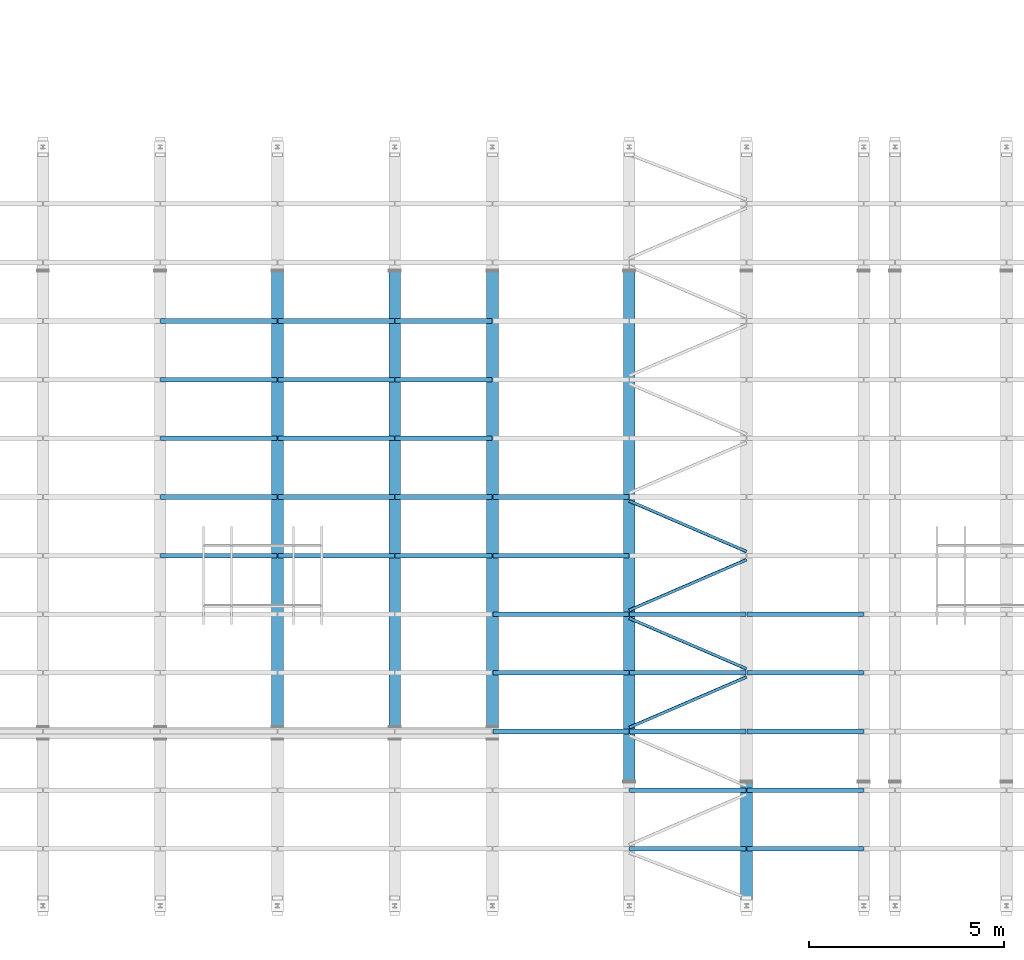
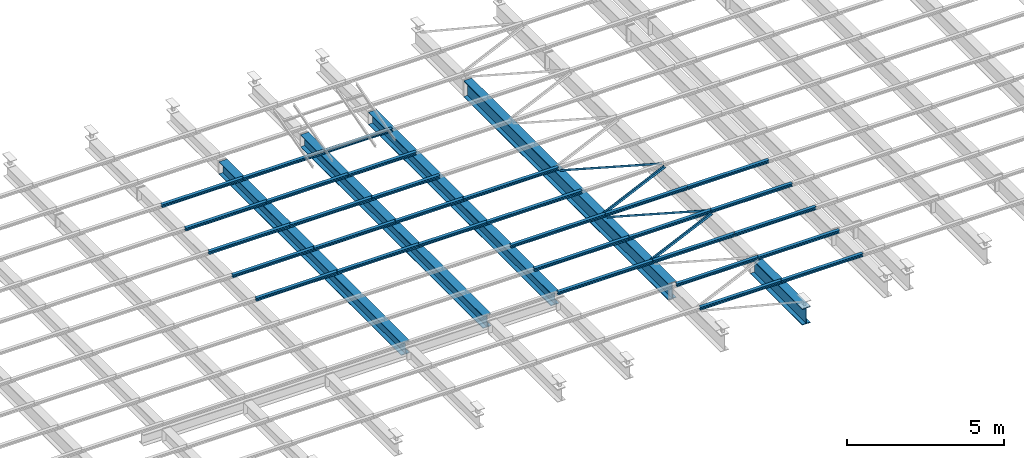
# One storey, part 64 of 139: 39 beams.
"""IFC2X3 building model written with IfcOpenShell, lengths in metres."""

from ifc_helpers import new_model, entity, si_unit, converted_unit, derived_unit, frame, origin, place, context, subcontext, project, spatial, polyline, outline, extrude, material, element, save


model = new_model("IFC2X3")

# Units and contexts
model_context = context("Model", 3, precision=1e-05, world=origin())
body_context = subcontext(model_context, "Body", "Model", "MODEL_VIEW")
ifc_project = project(units=[si_unit("LENGTHUNIT", "METRE"), si_unit("AREAUNIT", "SQUARE_METRE"), si_unit("VOLUMEUNIT", "CUBIC_METRE"), si_unit("MASSUNIT", "GRAM", prefix="KILO"), converted_unit("PLANEANGLEUNIT", "DEGREE", entity("IfcPlaneAngleMeasure", 0.0174532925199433), si_unit("PLANEANGLEUNIT", "RADIAN"), dimensions=[0, 0, 0, 0, 0, 0, 0]), derived_unit("THERMALTRANSMITTANCEUNIT", [(si_unit("POWERUNIT", "WATT"), 1), (si_unit("THERMODYNAMICTEMPERATUREUNIT", "KELVIN"), -1), (si_unit("LENGTHUNIT", "METRE"), -2)]), derived_unit("VOLUMETRICFLOWRATEUNIT", [(si_unit("LENGTHUNIT", "METRE"), 3), (converted_unit("TIMEUNIT", "hour", entity("IfcTimeMeasure", 3600.0), si_unit("TIMEUNIT", "SECOND"), dimensions=[0, 0, 1, 0, 0, 0, 0]), -1), (si_unit("LENGTHUNIT", "METRE"), -1)])], contexts=[model_context])

# Site, building, storey
site_placement = place(None, origin())
site = spatial("IfcSite", under=ifc_project, at=site_placement, Name="TWP_Speiseverteilzentrum SBW VZ II", CompositionType="ELEMENT")
building_placement = place(site_placement, origin())
building = spatial("IfcBuilding", under=site, at=building_placement, Name="Speiseverteilzentrum SBW VZ II", CompositionType="ELEMENT")
storey_placement = place(building_placement, frame((0.0, 0.0, 7.1307)))
storey = spatial("IfcBuildingStorey", under=building, at=storey_placement, Name="Wartung_FFB", CompositionType="ELEMENT", Elevation=7.1307)

# Beams
ifc_material_1 = material(Name="S235")
beam_1_placement = place(storey_placement, frame((76.0500000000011, 26.9020742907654, -0.435), z_axis=(0.0, 0.0, 1.0), x_axis=(-1.0, 0.0, 0.0)))
element("IfcBeam", 1, at=beam_1_placement, inside=storey, material=ifc_material_1, Name="Stahlträger", context=body_context, shape_type="SweptSolid", body=[
    extrude(outline(polyline([(-0.15, 0.245), (-0.15, 0.222), (-0.00599999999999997, 0.222), (-0.006, -0.222), (-0.15, -0.222), (-0.15, -0.245), (0.15, -0.245), (0.15, -0.222), (0.00600000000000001, -0.222), (0.00600000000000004, 0.222), (0.15, 0.222), (0.15, 0.245), (-0.15, 0.245)])), frame((0.0, 0.0, 0.0), z_axis=(0.0, 1.0, 0.0), x_axis=(-1.0, 0.0, 0.0)), (0.0, 0.0, 1.0), 11.6169742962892),
])
ifc_material_2 = material(Name="S235")
beam_2_placement = place(storey_placement, frame((79.0500000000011, 26.9020742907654, -0.435), z_axis=(0.0, 0.0, 1.0), x_axis=(-1.0, 0.0, 0.0)))
element("IfcBeam", 2, at=beam_2_placement, inside=storey, material=ifc_material_2, Name="Stahlträger", context=body_context, shape_type="SweptSolid", body=[
    extrude(outline(polyline([(-0.15, 0.245), (-0.15, 0.222), (-0.00599999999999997, 0.222), (-0.006, -0.222), (-0.15, -0.222), (-0.15, -0.245), (0.15, -0.245), (0.15, -0.222), (0.00600000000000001, -0.222), (0.00600000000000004, 0.222), (0.15, 0.222), (0.15, 0.245), (-0.15, 0.245)])), frame((0.0, 0.0, 0.0), z_axis=(0.0, 1.0, 0.0), x_axis=(-1.0, 0.0, 0.0)), (0.0, 0.0, 1.0), 11.6169742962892),
])
ifc_material_3 = material(Name="S235")
beam_3_placement = place(storey_placement, frame((81.5500000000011, 26.9020742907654, -0.435), z_axis=(0.0, 0.0, 1.0), x_axis=(-1.0, 0.0, 0.0)))
element("IfcBeam", 3, at=beam_3_placement, inside=storey, material=ifc_material_3, Name="Stahlträger", context=body_context, shape_type="SweptSolid", body=[
    extrude(outline(polyline([(-0.15, 0.245), (-0.15, 0.222), (-0.00599999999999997, 0.222), (-0.006, -0.222), (-0.15, -0.222), (-0.15, -0.245), (0.15, -0.245), (0.15, -0.222), (0.00600000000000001, -0.222), (0.00600000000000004, 0.222), (0.15, 0.222), (0.15, 0.245), (-0.15, 0.245)])), frame((0.0, 0.0, 0.0), z_axis=(0.0, 1.0, 0.0), x_axis=(-1.0, 0.0, 0.0)), (0.0, 0.0, 1.0), 11.6169742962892),
])
ifc_material_4 = material(Name="S235")
beam_4_placement = place(storey_placement, frame((85.0500000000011, 26.9020742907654, -0.51), z_axis=(0.0, 0.0, 1.0), x_axis=(-1.0, 0.0, 0.0)))
element("IfcBeam", 4, at=beam_4_placement, inside=storey, material=ifc_material_4, Name="Stahlträger", context=body_context, shape_type="SweptSolid", body=[
    extrude(outline(polyline([(-0.15, 0.32), (-0.15, 0.294), (-0.00675000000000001, 0.294), (-0.00675000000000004, -0.294), (-0.15, -0.294), (-0.15, -0.32), (0.15, -0.32), (0.15, -0.294), (0.00674999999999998, -0.294), (0.00675000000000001, 0.294), (0.15, 0.294), (0.15, 0.32), (-0.15, 0.32)])), frame((0.0, 0.0, 0.0), z_axis=(0.0, 1.0, 0.0), x_axis=(-1.0, 0.0, 0.0)), (0.0, 0.0, 1.0), 13.014),
])
ifc_material_5 = material(Name="S235")
beam_5_placement = place(storey_placement, frame((88.0500000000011, 13.8380742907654, -0.51), z_axis=(0.0, 0.0, 1.0), x_axis=(-1.0, 0.0, 0.0)))
element("IfcBeam", 5, at=beam_5_placement, inside=storey, material=ifc_material_5, Name="Stahlträger", context=body_context, shape_type="SweptSolid", body=[
    extrude(outline(polyline([(-0.15, 0.32), (-0.15, 0.294), (-0.00675000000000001, 0.294), (-0.00675000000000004, -0.294), (-0.15, -0.294), (-0.15, -0.32), (0.15, -0.32), (0.15, -0.294), (0.00674999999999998, -0.294), (0.00675000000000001, 0.294), (0.15, 0.294), (0.15, 0.32), (-0.15, 0.32)])), frame((0.0, 0.0, 0.0), z_axis=(0.0, 1.0, 0.0), x_axis=(-1.0, 0.0, 0.0)), (0.0, 0.0, 1.0), 3.29792570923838),
])
ifc_material_6 = material(Name="S235")
beam_6_placement = place(storey_placement, frame((73.0600000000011, 25.6450742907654, -0.133), z_axis=(0.0, 0.0, 1.0), x_axis=(0.0, -1.0, 0.0)))
element("IfcBeam", 6, at=beam_6_placement, inside=storey, material=ifc_material_6, Name="Nebenträger", context=body_context, shape_type="SweptSolid", body=[
    extrude(outline(polyline([(-0.06, 0.0570000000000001), (-0.06, 0.0490000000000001), (-0.00249999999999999, 0.0490000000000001), (-0.0025, -0.0489999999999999), (-0.06, -0.0489999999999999), (-0.06, -0.0569999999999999), (0.06, -0.0569999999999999), (0.06, -0.0489999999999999), (0.0025, -0.0489999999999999), (0.00250000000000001, 0.0490000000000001), (0.06, 0.0490000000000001), (0.06, 0.0570000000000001), (-0.06, 0.0570000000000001)])), frame((0.0, 0.0, 0.0), z_axis=(0.0, 1.0, 0.0), x_axis=(-1.0, 0.0, 0.0)), (0.0, 0.0, 1.0), 2.98),
])
ifc_material_7 = material(Name="S235")
beam_7_placement = place(storey_placement, frame((76.0600000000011, 25.6450742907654, -0.133), z_axis=(0.0, 0.0, 1.0), x_axis=(0.0, -1.0, 0.0)))
element("IfcBeam", 7, at=beam_7_placement, inside=storey, material=ifc_material_7, Name="Nebenträger", context=body_context, shape_type="SweptSolid", body=[
    extrude(outline(polyline([(-0.06, 0.0570000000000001), (-0.06, 0.0490000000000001), (-0.00249999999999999, 0.0490000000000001), (-0.0025, -0.0489999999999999), (-0.06, -0.0489999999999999), (-0.06, -0.0569999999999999), (0.06, -0.0569999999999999), (0.06, -0.0489999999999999), (0.0025, -0.0489999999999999), (0.00250000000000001, 0.0490000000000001), (0.06, 0.0490000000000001), (0.06, 0.0570000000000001), (-0.06, 0.0570000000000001)])), frame((0.0, 0.0, 0.0), z_axis=(0.0, 1.0, 0.0), x_axis=(-1.0, 0.0, 0.0)), (0.0, 0.0, 1.0), 2.98),
])
ifc_material_8 = material(Name="S235")
beam_8_placement = place(storey_placement, frame((73.0600000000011, 24.1450742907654, -0.133), z_axis=(0.0, 0.0, 1.0), x_axis=(0.0, -1.0, 0.0)))
element("IfcBeam", 8, at=beam_8_placement, inside=storey, material=ifc_material_8, Name="Nebenträger", context=body_context, shape_type="SweptSolid", body=[
    extrude(outline(polyline([(-0.06, 0.0570000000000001), (-0.06, 0.0490000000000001), (-0.00249999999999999, 0.0490000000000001), (-0.0025, -0.0489999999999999), (-0.06, -0.0489999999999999), (-0.06, -0.0569999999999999), (0.06, -0.0569999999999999), (0.06, -0.0489999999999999), (0.0025, -0.0489999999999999), (0.00250000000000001, 0.0490000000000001), (0.06, 0.0490000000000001), (0.06, 0.0570000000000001), (-0.06, 0.0570000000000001)])), frame((0.0, 0.0, 0.0), z_axis=(0.0, 1.0, 0.0), x_axis=(-1.0, 0.0, 0.0)), (0.0, 0.0, 1.0), 2.98),
])
ifc_material_9 = material(Name="S235")
beam_9_placement = place(storey_placement, frame((76.0600000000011, 24.1450742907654, -0.133), z_axis=(0.0, 0.0, 1.0), x_axis=(0.0, -1.0, 0.0)))
element("IfcBeam", 9, at=beam_9_placement, inside=storey, material=ifc_material_9, Name="Nebenträger", context=body_context, shape_type="SweptSolid", body=[
    extrude(outline(polyline([(-0.06, 0.0570000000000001), (-0.06, 0.0490000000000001), (-0.00249999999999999, 0.0490000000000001), (-0.0025, -0.0489999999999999), (-0.06, -0.0489999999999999), (-0.06, -0.0569999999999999), (0.06, -0.0569999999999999), (0.06, -0.0489999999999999), (0.0025, -0.0489999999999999), (0.00250000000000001, 0.0490000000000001), (0.06, 0.0490000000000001), (0.06, 0.0570000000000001), (-0.06, 0.0570000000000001)])), frame((0.0, 0.0, 0.0), z_axis=(0.0, 1.0, 0.0), x_axis=(-1.0, 0.0, 0.0)), (0.0, 0.0, 1.0), 2.98),
])
ifc_material_10 = material(Name="S235")
beam_10_placement = place(storey_placement, frame((73.0600000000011, 22.6450742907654, -0.133), z_axis=(0.0, 0.0, 1.0), x_axis=(0.0, -1.0, 0.0)))
element("IfcBeam", 10, at=beam_10_placement, inside=storey, material=ifc_material_10, Name="Nebenträger", context=body_context, shape_type="SweptSolid", body=[
    extrude(outline(polyline([(-0.06, 0.0570000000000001), (-0.06, 0.0490000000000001), (-0.00249999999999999, 0.0490000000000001), (-0.0025, -0.0489999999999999), (-0.06, -0.0489999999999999), (-0.06, -0.0569999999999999), (0.06, -0.0569999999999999), (0.06, -0.0489999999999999), (0.0025, -0.0489999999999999), (0.00250000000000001, 0.0490000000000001), (0.06, 0.0490000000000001), (0.06, 0.0570000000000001), (-0.06, 0.0570000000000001)])), frame((0.0, 0.0, 0.0), z_axis=(0.0, 1.0, 0.0), x_axis=(-1.0, 0.0, 0.0)), (0.0, 0.0, 1.0), 2.98),
])
ifc_material_11 = material(Name="S235")
beam_11_placement = place(storey_placement, frame((76.0600000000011, 22.6450742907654, -0.133), z_axis=(0.0, 0.0, 1.0), x_axis=(0.0, -1.0, 0.0)))
element("IfcBeam", 11, at=beam_11_placement, inside=storey, material=ifc_material_11, Name="Nebenträger", context=body_context, shape_type="SweptSolid", body=[
    extrude(outline(polyline([(-0.06, 0.0570000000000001), (-0.06, 0.0490000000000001), (-0.00249999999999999, 0.0490000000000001), (-0.0025, -0.0489999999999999), (-0.06, -0.0489999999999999), (-0.06, -0.0569999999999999), (0.06, -0.0569999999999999), (0.06, -0.0489999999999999), (0.0025, -0.0489999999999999), (0.00250000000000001, 0.0490000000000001), (0.06, 0.0490000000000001), (0.06, 0.0570000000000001), (-0.06, 0.0570000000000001)])), frame((0.0, 0.0, 0.0), z_axis=(0.0, 1.0, 0.0), x_axis=(-1.0, 0.0, 0.0)), (0.0, 0.0, 1.0), 2.98),
])
ifc_material_12 = material(Name="S235")
beam_12_placement = place(storey_placement, frame((73.0600000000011, 21.1450742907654, -0.133), z_axis=(0.0, 0.0, 1.0), x_axis=(0.0, -1.0, 0.0)))
element("IfcBeam", 12, at=beam_12_placement, inside=storey, material=ifc_material_12, Name="Nebenträger", context=body_context, shape_type="SweptSolid", body=[
    extrude(outline(polyline([(-0.06, 0.0570000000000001), (-0.06, 0.0490000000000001), (-0.00249999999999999, 0.0490000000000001), (-0.0025, -0.0489999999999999), (-0.06, -0.0489999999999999), (-0.06, -0.0569999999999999), (0.06, -0.0569999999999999), (0.06, -0.0489999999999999), (0.0025, -0.0489999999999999), (0.00250000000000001, 0.0490000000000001), (0.06, 0.0490000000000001), (0.06, 0.0570000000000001), (-0.06, 0.0570000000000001)])), frame((0.0, 0.0, 0.0), z_axis=(0.0, 1.0, 0.0), x_axis=(-1.0, 0.0, 0.0)), (0.0, 0.0, 1.0), 2.98),
])
ifc_material_13 = material(Name="S235")
beam_13_placement = place(storey_placement, frame((76.0600000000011, 21.1450742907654, -0.133), z_axis=(0.0, 0.0, 1.0), x_axis=(0.0, -1.0, 0.0)))
element("IfcBeam", 13, at=beam_13_placement, inside=storey, material=ifc_material_13, Name="Nebenträger", context=body_context, shape_type="SweptSolid", body=[
    extrude(outline(polyline([(-0.06, 0.0570000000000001), (-0.06, 0.0490000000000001), (-0.00249999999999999, 0.0490000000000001), (-0.0025, -0.0489999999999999), (-0.06, -0.0489999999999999), (-0.06, -0.0569999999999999), (0.06, -0.0569999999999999), (0.06, -0.0489999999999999), (0.0025, -0.0489999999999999), (0.00250000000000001, 0.0490000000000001), (0.06, 0.0490000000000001), (0.06, 0.0570000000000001), (-0.06, 0.0570000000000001)])), frame((0.0, 0.0, 0.0), z_axis=(0.0, 1.0, 0.0), x_axis=(-1.0, 0.0, 0.0)), (0.0, 0.0, 1.0), 2.98),
])
ifc_material_14 = material(Name="S235")
beam_14_placement = place(storey_placement, frame((73.0600000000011, 19.6450742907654, -0.133), z_axis=(0.0, 0.0, 1.0), x_axis=(0.0, -1.0, 0.0)))
element("IfcBeam", 14, at=beam_14_placement, inside=storey, material=ifc_material_14, Name="Nebenträger", context=body_context, shape_type="SweptSolid", body=[
    extrude(outline(polyline([(-0.06, 0.0570000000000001), (-0.06, 0.0490000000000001), (-0.00249999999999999, 0.0490000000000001), (-0.0025, -0.0489999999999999), (-0.06, -0.0489999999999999), (-0.06, -0.0569999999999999), (0.06, -0.0569999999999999), (0.06, -0.0489999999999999), (0.0025, -0.0489999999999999), (0.00250000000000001, 0.0490000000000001), (0.06, 0.0490000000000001), (0.06, 0.0570000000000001), (-0.06, 0.0570000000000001)])), frame((0.0, 0.0, 0.0), z_axis=(0.0, 1.0, 0.0), x_axis=(-1.0, 0.0, 0.0)), (0.0, 0.0, 1.0), 2.98),
])
ifc_material_15 = material(Name="S235")
beam_15_placement = place(storey_placement, frame((76.0600000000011, 19.6450742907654, -0.133), z_axis=(0.0, 0.0, 1.0), x_axis=(0.0, -1.0, 0.0)))
element("IfcBeam", 15, at=beam_15_placement, inside=storey, material=ifc_material_15, Name="Nebenträger", context=body_context, shape_type="SweptSolid", body=[
    extrude(outline(polyline([(-0.06, 0.0570000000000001), (-0.06, 0.0490000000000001), (-0.00249999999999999, 0.0490000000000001), (-0.0025, -0.0489999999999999), (-0.06, -0.0489999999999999), (-0.06, -0.0569999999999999), (0.06, -0.0569999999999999), (0.06, -0.0489999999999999), (0.0025, -0.0489999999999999), (0.00250000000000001, 0.0490000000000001), (0.06, 0.0490000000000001), (0.06, 0.0570000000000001), (-0.06, 0.0570000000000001)])), frame((0.0, 0.0, 0.0), z_axis=(0.0, 1.0, 0.0), x_axis=(-1.0, 0.0, 0.0)), (0.0, 0.0, 1.0), 2.98),
])
ifc_material_16 = material(Name="S235")
beam_16_placement = place(storey_placement, frame((85.0600000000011, 18.1450742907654, -0.133), z_axis=(0.0, 0.0, 1.0), x_axis=(0.0, -1.0, 0.0)))
element("IfcBeam", 16, at=beam_16_placement, inside=storey, material=ifc_material_16, Name="Nebenträger", context=body_context, shape_type="SweptSolid", body=[
    extrude(outline(polyline([(-0.06, 0.0570000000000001), (-0.06, 0.0490000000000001), (-0.00249999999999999, 0.0490000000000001), (-0.0025, -0.0489999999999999), (-0.06, -0.0489999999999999), (-0.06, -0.0569999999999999), (0.06, -0.0569999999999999), (0.06, -0.0489999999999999), (0.0025, -0.0489999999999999), (0.00250000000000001, 0.0490000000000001), (0.06, 0.0490000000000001), (0.06, 0.0570000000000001), (-0.06, 0.0570000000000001)])), frame((0.0, 0.0, 0.0), z_axis=(0.0, 1.0, 0.0), x_axis=(-1.0, 0.0, 0.0)), (0.0, 0.0, 1.0), 2.98),
])
ifc_material_17 = material(Name="S235")
beam_17_placement = place(storey_placement, frame((88.0600000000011, 18.1450742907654, -0.133), z_axis=(0.0, 0.0, 1.0), x_axis=(0.0, -1.0, 0.0)))
element("IfcBeam", 17, at=beam_17_placement, inside=storey, material=ifc_material_17, Name="Nebenträger", context=body_context, shape_type="SweptSolid", body=[
    extrude(outline(polyline([(-0.06, 0.0570000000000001), (-0.06, 0.0490000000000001), (-0.00249999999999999, 0.0490000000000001), (-0.0025, -0.0489999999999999), (-0.06, -0.0489999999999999), (-0.06, -0.0569999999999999), (0.06, -0.0569999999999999), (0.06, -0.0489999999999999), (0.0025, -0.0489999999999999), (0.00250000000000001, 0.0490000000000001), (0.06, 0.0490000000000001), (0.06, 0.0570000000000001), (-0.06, 0.0570000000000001)])), frame((0.0, 0.0, 0.0), z_axis=(0.0, 1.0, 0.0), x_axis=(-1.0, 0.0, 0.0)), (0.0, 0.0, 1.0), 2.98),
])
ifc_material_18 = material(Name="S235")
beam_18_placement = place(storey_placement, frame((85.0600000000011, 16.6450742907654, -0.133), z_axis=(0.0, 0.0, 1.0), x_axis=(0.0, -1.0, 0.0)))
element("IfcBeam", 18, at=beam_18_placement, inside=storey, material=ifc_material_18, Name="Nebenträger", context=body_context, shape_type="SweptSolid", body=[
    extrude(outline(polyline([(-0.06, 0.0570000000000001), (-0.06, 0.0490000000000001), (-0.00249999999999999, 0.0490000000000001), (-0.0025, -0.0489999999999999), (-0.06, -0.0489999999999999), (-0.06, -0.0569999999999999), (0.06, -0.0569999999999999), (0.06, -0.0489999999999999), (0.0025, -0.0489999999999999), (0.00250000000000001, 0.0490000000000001), (0.06, 0.0490000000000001), (0.06, 0.0570000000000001), (-0.06, 0.0570000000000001)])), frame((0.0, 0.0, 0.0), z_axis=(0.0, 1.0, 0.0), x_axis=(-1.0, 0.0, 0.0)), (0.0, 0.0, 1.0), 2.98),
])
ifc_material_19 = material(Name="S235")
beam_19_placement = place(storey_placement, frame((88.0600000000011, 16.6450742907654, -0.133), z_axis=(0.0, 0.0, 1.0), x_axis=(0.0, -1.0, 0.0)))
element("IfcBeam", 19, at=beam_19_placement, inside=storey, material=ifc_material_19, Name="Nebenträger", context=body_context, shape_type="SweptSolid", body=[
    extrude(outline(polyline([(-0.06, 0.0570000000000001), (-0.06, 0.0490000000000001), (-0.00249999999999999, 0.0490000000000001), (-0.0025, -0.0489999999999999), (-0.06, -0.0489999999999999), (-0.06, -0.0569999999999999), (0.06, -0.0569999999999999), (0.06, -0.0489999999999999), (0.0025, -0.0489999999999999), (0.00250000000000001, 0.0490000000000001), (0.06, 0.0490000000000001), (0.06, 0.0570000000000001), (-0.06, 0.0570000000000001)])), frame((0.0, 0.0, 0.0), z_axis=(0.0, 1.0, 0.0), x_axis=(-1.0, 0.0, 0.0)), (0.0, 0.0, 1.0), 2.98),
])
ifc_material_20 = material(Name="S235")
beam_20_placement = place(storey_placement, frame((85.0600000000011, 15.1450742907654, -0.133), z_axis=(0.0, 0.0, 1.0), x_axis=(0.0, -1.0, 0.0)))
element("IfcBeam", 20, at=beam_20_placement, inside=storey, material=ifc_material_20, Name="Nebenträger", context=body_context, shape_type="SweptSolid", body=[
    extrude(outline(polyline([(-0.06, 0.0570000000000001), (-0.06, 0.0490000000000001), (-0.00249999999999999, 0.0490000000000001), (-0.0025, -0.0489999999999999), (-0.06, -0.0489999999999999), (-0.06, -0.0569999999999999), (0.06, -0.0569999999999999), (0.06, -0.0489999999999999), (0.0025, -0.0489999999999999), (0.00250000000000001, 0.0490000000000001), (0.06, 0.0490000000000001), (0.06, 0.0570000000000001), (-0.06, 0.0570000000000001)])), frame((0.0, 0.0, 0.0), z_axis=(0.0, 1.0, 0.0), x_axis=(-1.0, 0.0, 0.0)), (0.0, 0.0, 1.0), 2.98),
])
ifc_material_21 = material(Name="S235")
beam_21_placement = place(storey_placement, frame((88.0600000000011, 15.1450742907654, -0.133), z_axis=(0.0, 0.0, 1.0), x_axis=(0.0, -1.0, 0.0)))
element("IfcBeam", 21, at=beam_21_placement, inside=storey, material=ifc_material_21, Name="Nebenträger", context=body_context, shape_type="SweptSolid", body=[
    extrude(outline(polyline([(-0.06, 0.0570000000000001), (-0.06, 0.0490000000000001), (-0.00249999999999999, 0.0490000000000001), (-0.0025, -0.0489999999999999), (-0.06, -0.0489999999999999), (-0.06, -0.0569999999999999), (0.06, -0.0569999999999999), (0.06, -0.0489999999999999), (0.0025, -0.0489999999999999), (0.00250000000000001, 0.0490000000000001), (0.06, 0.0490000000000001), (0.06, 0.0570000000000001), (-0.06, 0.0570000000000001)])), frame((0.0, 0.0, 0.0), z_axis=(0.0, 1.0, 0.0), x_axis=(-1.0, 0.0, 0.0)), (0.0, 0.0, 1.0), 2.98),
])
ifc_material_22 = material(Name="S235")
beam_22_placement = place(storey_placement, frame((85.0600000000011, 13.6450742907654, -0.133), z_axis=(0.0, 0.0, 1.0), x_axis=(0.0, -1.0, 0.0)))
element("IfcBeam", 22, at=beam_22_placement, inside=storey, material=ifc_material_22, Name="Nebenträger", context=body_context, shape_type="SweptSolid", body=[
    extrude(outline(polyline([(-0.06, 0.0570000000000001), (-0.06, 0.0490000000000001), (-0.00249999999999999, 0.0490000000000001), (-0.0025, -0.0489999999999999), (-0.06, -0.0489999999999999), (-0.06, -0.0569999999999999), (0.06, -0.0569999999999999), (0.06, -0.0489999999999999), (0.0025, -0.0489999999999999), (0.00250000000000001, 0.0490000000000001), (0.06, 0.0490000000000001), (0.06, 0.0570000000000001), (-0.06, 0.0570000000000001)])), frame((0.0, 0.0, 0.0), z_axis=(0.0, 1.0, 0.0), x_axis=(-1.0, 0.0, 0.0)), (0.0, 0.0, 1.0), 2.98),
])
ifc_material_23 = material(Name="S235")
beam_23_placement = place(storey_placement, frame((88.0600000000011, 13.6450742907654, -0.133), z_axis=(0.0, 0.0, 1.0), x_axis=(0.0, -1.0, 0.0)))
element("IfcBeam", 23, at=beam_23_placement, inside=storey, material=ifc_material_23, Name="Nebenträger", context=body_context, shape_type="SweptSolid", body=[
    extrude(outline(polyline([(-0.06, 0.0570000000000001), (-0.06, 0.0490000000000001), (-0.00249999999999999, 0.0490000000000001), (-0.0025, -0.0489999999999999), (-0.06, -0.0489999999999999), (-0.06, -0.0569999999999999), (0.06, -0.0569999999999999), (0.06, -0.0489999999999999), (0.0025, -0.0489999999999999), (0.00250000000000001, 0.0490000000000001), (0.06, 0.0490000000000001), (0.06, 0.0570000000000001), (-0.06, 0.0570000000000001)])), frame((0.0, 0.0, 0.0), z_axis=(0.0, 1.0, 0.0), x_axis=(-1.0, 0.0, 0.0)), (0.0, 0.0, 1.0), 2.98),
])
ifc_material_24 = material(Name="S235")
beam_24_placement = place(storey_placement, frame((85.0600000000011, 12.1450742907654, -0.133), z_axis=(0.0, 0.0, 1.0), x_axis=(0.0, -1.0, 0.0)))
element("IfcBeam", 24, at=beam_24_placement, inside=storey, material=ifc_material_24, Name="Nebenträger", context=body_context, shape_type="SweptSolid", body=[
    extrude(outline(polyline([(-0.06, 0.0570000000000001), (-0.06, 0.0490000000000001), (-0.00249999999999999, 0.0490000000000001), (-0.0025, -0.0489999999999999), (-0.06, -0.0489999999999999), (-0.06, -0.0569999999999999), (0.06, -0.0569999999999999), (0.06, -0.0489999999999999), (0.0025, -0.0489999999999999), (0.00250000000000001, 0.0490000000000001), (0.06, 0.0490000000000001), (0.06, 0.0570000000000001), (-0.06, 0.0570000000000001)])), frame((0.0, 0.0, 0.0), z_axis=(0.0, 1.0, 0.0), x_axis=(-1.0, 0.0, 0.0)), (0.0, 0.0, 1.0), 2.98),
])
ifc_material_25 = material(Name="S235")
beam_25_placement = place(storey_placement, frame((88.0600000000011, 12.1450742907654, -0.133), z_axis=(0.0, 0.0, 1.0), x_axis=(0.0, -1.0, 0.0)))
element("IfcBeam", 25, at=beam_25_placement, inside=storey, material=ifc_material_25, Name="Nebenträger", context=body_context, shape_type="SweptSolid", body=[
    extrude(outline(polyline([(-0.06, 0.0570000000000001), (-0.06, 0.0490000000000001), (-0.00249999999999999, 0.0490000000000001), (-0.0025, -0.0489999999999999), (-0.06, -0.0489999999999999), (-0.06, -0.0569999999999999), (0.06, -0.0569999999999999), (0.06, -0.0489999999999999), (0.0025, -0.0489999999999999), (0.00250000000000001, 0.0490000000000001), (0.06, 0.0490000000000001), (0.06, 0.0570000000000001), (-0.06, 0.0570000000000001)])), frame((0.0, 0.0, 0.0), z_axis=(0.0, 1.0, 0.0), x_axis=(-1.0, 0.0, 0.0)), (0.0, 0.0, 1.0), 2.98),
])
ifc_material_26 = material(Name="S235")
beam_26_placement = place(storey_placement, frame((79.0600000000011, 25.6450742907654, -0.133), z_axis=(0.0, 0.0, 1.0), x_axis=(0.0, -1.0, 0.0)))
element("IfcBeam", 26, at=beam_26_placement, inside=storey, material=ifc_material_26, Name="Nebenträger", context=body_context, shape_type="SweptSolid", body=[
    extrude(outline(polyline([(-0.06, 0.0570000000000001), (-0.06, 0.0490000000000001), (-0.00249999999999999, 0.0490000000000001), (-0.0025, -0.0489999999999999), (-0.06, -0.0489999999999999), (-0.06, -0.0569999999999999), (0.06, -0.0569999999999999), (0.06, -0.0489999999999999), (0.0025, -0.0489999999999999), (0.00250000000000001, 0.0490000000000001), (0.06, 0.0490000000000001), (0.06, 0.0570000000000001), (-0.06, 0.0570000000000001)])), frame((0.0, 0.0, 0.0), z_axis=(0.0, 1.0, 0.0), x_axis=(-1.0, 0.0, 0.0)), (0.0, 0.0, 1.0), 2.48),
])
ifc_material_27 = material(Name="S235")
beam_27_placement = place(storey_placement, frame((79.0600000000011, 24.1450742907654, -0.133), z_axis=(0.0, 0.0, 1.0), x_axis=(0.0, -1.0, 0.0)))
element("IfcBeam", 27, at=beam_27_placement, inside=storey, material=ifc_material_27, Name="Nebenträger", context=body_context, shape_type="SweptSolid", body=[
    extrude(outline(polyline([(-0.06, 0.0570000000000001), (-0.06, 0.0490000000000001), (-0.00249999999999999, 0.0490000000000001), (-0.0025, -0.0489999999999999), (-0.06, -0.0489999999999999), (-0.06, -0.0569999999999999), (0.06, -0.0569999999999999), (0.06, -0.0489999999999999), (0.0025, -0.0489999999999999), (0.00250000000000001, 0.0490000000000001), (0.06, 0.0490000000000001), (0.06, 0.0570000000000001), (-0.06, 0.0570000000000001)])), frame((0.0, 0.0, 0.0), z_axis=(0.0, 1.0, 0.0), x_axis=(-1.0, 0.0, 0.0)), (0.0, 0.0, 1.0), 2.48),
])
ifc_material_28 = material(Name="S235")
beam_28_placement = place(storey_placement, frame((79.0600000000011, 22.6450742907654, -0.133), z_axis=(0.0, 0.0, 1.0), x_axis=(0.0, -1.0, 0.0)))
element("IfcBeam", 28, at=beam_28_placement, inside=storey, material=ifc_material_28, Name="Nebenträger", context=body_context, shape_type="SweptSolid", body=[
    extrude(outline(polyline([(-0.06, 0.0570000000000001), (-0.06, 0.0490000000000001), (-0.00249999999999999, 0.0490000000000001), (-0.0025, -0.0489999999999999), (-0.06, -0.0489999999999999), (-0.06, -0.0569999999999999), (0.06, -0.0569999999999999), (0.06, -0.0489999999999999), (0.0025, -0.0489999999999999), (0.00250000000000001, 0.0490000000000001), (0.06, 0.0490000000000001), (0.06, 0.0570000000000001), (-0.06, 0.0570000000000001)])), frame((0.0, 0.0, 0.0), z_axis=(0.0, 1.0, 0.0), x_axis=(-1.0, 0.0, 0.0)), (0.0, 0.0, 1.0), 2.48),
])
ifc_material_29 = material(Name="S235")
beam_29_placement = place(storey_placement, frame((79.0600000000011, 21.1450742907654, -0.133), z_axis=(0.0, 0.0, 1.0), x_axis=(0.0, -1.0, 0.0)))
element("IfcBeam", 29, at=beam_29_placement, inside=storey, material=ifc_material_29, Name="Nebenträger", context=body_context, shape_type="SweptSolid", body=[
    extrude(outline(polyline([(-0.06, 0.0570000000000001), (-0.06, 0.0490000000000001), (-0.00249999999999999, 0.0490000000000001), (-0.0025, -0.0489999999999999), (-0.06, -0.0489999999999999), (-0.06, -0.0569999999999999), (0.06, -0.0569999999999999), (0.06, -0.0489999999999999), (0.0025, -0.0489999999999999), (0.00250000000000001, 0.0490000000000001), (0.06, 0.0490000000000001), (0.06, 0.0570000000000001), (-0.06, 0.0570000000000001)])), frame((0.0, 0.0, 0.0), z_axis=(0.0, 1.0, 0.0), x_axis=(-1.0, 0.0, 0.0)), (0.0, 0.0, 1.0), 2.48),
])
ifc_material_30 = material(Name="S235")
beam_30_placement = place(storey_placement, frame((81.5600000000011, 21.1450742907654, -0.133), z_axis=(0.0, 0.0, 1.0), x_axis=(0.0, -1.0, 0.0)))
element("IfcBeam", 30, at=beam_30_placement, inside=storey, material=ifc_material_30, Name="Nebenträger", context=body_context, shape_type="SweptSolid", body=[
    extrude(outline(polyline([(-0.06, 0.0570000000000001), (-0.06, 0.0490000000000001), (-0.00249999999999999, 0.0490000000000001), (-0.0025, -0.0489999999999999), (-0.06, -0.0489999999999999), (-0.06, -0.0569999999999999), (0.06, -0.0569999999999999), (0.06, -0.0489999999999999), (0.0025, -0.0489999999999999), (0.00250000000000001, 0.0490000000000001), (0.06, 0.0490000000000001), (0.06, 0.0570000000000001), (-0.06, 0.0570000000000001)])), frame((0.0, 0.0, 0.0), z_axis=(0.0, 1.0, 0.0), x_axis=(-1.0, 0.0, 0.0)), (0.0, 0.0, 1.0), 3.48),
])
ifc_material_31 = material(Name="S235")
beam_31_placement = place(storey_placement, frame((79.0600000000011, 19.6450742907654, -0.133), z_axis=(0.0, 0.0, 1.0), x_axis=(0.0, -1.0, 0.0)))
element("IfcBeam", 31, at=beam_31_placement, inside=storey, material=ifc_material_31, Name="Nebenträger", context=body_context, shape_type="SweptSolid", body=[
    extrude(outline(polyline([(-0.06, 0.0570000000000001), (-0.06, 0.0490000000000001), (-0.00249999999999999, 0.0490000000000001), (-0.0025, -0.0489999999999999), (-0.06, -0.0489999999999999), (-0.06, -0.0569999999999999), (0.06, -0.0569999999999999), (0.06, -0.0489999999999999), (0.0025, -0.0489999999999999), (0.00250000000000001, 0.0490000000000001), (0.06, 0.0490000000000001), (0.06, 0.0570000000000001), (-0.06, 0.0570000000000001)])), frame((0.0, 0.0, 0.0), z_axis=(0.0, 1.0, 0.0), x_axis=(-1.0, 0.0, 0.0)), (0.0, 0.0, 1.0), 2.48),
])
ifc_material_32 = material(Name="S235")
beam_32_placement = place(storey_placement, frame((81.5600000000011, 19.6450742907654, -0.133), z_axis=(0.0, 0.0, 1.0), x_axis=(0.0, -1.0, 0.0)))
element("IfcBeam", 32, at=beam_32_placement, inside=storey, material=ifc_material_32, Name="Nebenträger", context=body_context, shape_type="SweptSolid", body=[
    extrude(outline(polyline([(-0.06, 0.0570000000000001), (-0.06, 0.0490000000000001), (-0.00249999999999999, 0.0490000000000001), (-0.0025, -0.0489999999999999), (-0.06, -0.0489999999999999), (-0.06, -0.0569999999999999), (0.06, -0.0569999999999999), (0.06, -0.0489999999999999), (0.0025, -0.0489999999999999), (0.00250000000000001, 0.0490000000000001), (0.06, 0.0490000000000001), (0.06, 0.0570000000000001), (-0.06, 0.0570000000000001)])), frame((0.0, 0.0, 0.0), z_axis=(0.0, 1.0, 0.0), x_axis=(-1.0, 0.0, 0.0)), (0.0, 0.0, 1.0), 3.48),
])
ifc_material_33 = material(Name="S235")
beam_33_placement = place(storey_placement, frame((81.5600000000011, 18.1450742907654, -0.133), z_axis=(0.0, 0.0, 1.0), x_axis=(0.0, -1.0, 0.0)))
element("IfcBeam", 33, at=beam_33_placement, inside=storey, material=ifc_material_33, Name="Nebenträger", context=body_context, shape_type="SweptSolid", body=[
    extrude(outline(polyline([(-0.06, 0.0570000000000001), (-0.06, 0.0490000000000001), (-0.00249999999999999, 0.0490000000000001), (-0.0025, -0.0489999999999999), (-0.06, -0.0489999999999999), (-0.06, -0.0569999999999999), (0.06, -0.0569999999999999), (0.06, -0.0489999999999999), (0.0025, -0.0489999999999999), (0.00250000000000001, 0.0490000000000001), (0.06, 0.0490000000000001), (0.06, 0.0570000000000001), (-0.06, 0.0570000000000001)])), frame((0.0, 0.0, 0.0), z_axis=(0.0, 1.0, 0.0), x_axis=(-1.0, 0.0, 0.0)), (0.0, 0.0, 1.0), 3.48),
])
ifc_material_34 = material(Name="S235")
beam_34_placement = place(storey_placement, frame((81.5600000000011, 16.6450742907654, -0.133), z_axis=(0.0, 0.0, 1.0), x_axis=(0.0, -1.0, 0.0)))
element("IfcBeam", 34, at=beam_34_placement, inside=storey, material=ifc_material_34, Name="Nebenträger", context=body_context, shape_type="SweptSolid", body=[
    extrude(outline(polyline([(-0.06, 0.0570000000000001), (-0.06, 0.0490000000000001), (-0.00249999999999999, 0.0490000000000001), (-0.0025, -0.0489999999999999), (-0.06, -0.0489999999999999), (-0.06, -0.0569999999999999), (0.06, -0.0569999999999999), (0.06, -0.0489999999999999), (0.0025, -0.0489999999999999), (0.00250000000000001, 0.0490000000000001), (0.06, 0.0490000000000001), (0.06, 0.0570000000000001), (-0.06, 0.0570000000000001)])), frame((0.0, 0.0, 0.0), z_axis=(0.0, 1.0, 0.0), x_axis=(-1.0, 0.0, 0.0)), (0.0, 0.0, 1.0), 3.48),
])
ifc_material_35 = material(Name="S235")
beam_35_placement = place(storey_placement, frame((81.5600000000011, 15.1450742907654, -0.133), z_axis=(0.0, 0.0, 1.0), x_axis=(0.0, -1.0, 0.0)))
element("IfcBeam", 35, at=beam_35_placement, inside=storey, material=ifc_material_35, Name="Nebenträger", context=body_context, shape_type="SweptSolid", body=[
    extrude(outline(polyline([(-0.06, 0.0570000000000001), (-0.06, 0.0490000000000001), (-0.00249999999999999, 0.0490000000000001), (-0.0025, -0.0489999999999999), (-0.06, -0.0489999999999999), (-0.06, -0.0569999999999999), (0.06, -0.0569999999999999), (0.06, -0.0489999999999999), (0.0025, -0.0489999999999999), (0.00250000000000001, 0.0490000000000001), (0.06, 0.0490000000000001), (0.06, 0.0570000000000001), (-0.06, 0.0570000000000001)])), frame((0.0, 0.0, 0.0), z_axis=(0.0, 1.0, 0.0), x_axis=(-1.0, 0.0, 0.0)), (0.0, 0.0, 1.0), 3.48),
])
ifc_material_36 = material(Name="S235")
beam_36_placement = place(storey_placement, frame((85.0406913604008, 18.2634673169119, -0.167052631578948), z_axis=(0.0, 0.0, 1.0), x_axis=(0.395932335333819, -0.91827968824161, 0.0)))
element("IfcBeam", 36, at=beam_36_placement, inside=storey, material=ifc_material_36, Name="Kreuzverband", context=body_context, shape_type="SweptSolid", body=[
    extrude(outline(polyline([(0.0229473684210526, -0.0229473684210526), (0.0229473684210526, 0.0570526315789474), (0.0149473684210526, 0.0570526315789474), (0.0149473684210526, -0.0149473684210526), (-0.0570526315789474, -0.0149473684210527), (-0.0570526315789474, -0.0229473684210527), (0.0229473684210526, -0.0229473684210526)])), frame((0.0, 0.0, 0.0), z_axis=(0.0, 0.999999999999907, 0.0), x_axis=(-1.0, 0.0, 0.0)), (0.0, 0.0, 1.0), 3.27000000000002),
])
ifc_material_37 = material(Name="S235")
beam_37_placement = place(storey_placement, frame((85.0406913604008, 21.0266812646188, -0.167052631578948), z_axis=(0.0, 0.0, 1.0), x_axis=(-0.395932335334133, -0.918279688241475, 0.0)))
element("IfcBeam", 37, at=beam_37_placement, inside=storey, material=ifc_material_37, Name="Kreuzverband", context=body_context, shape_type="SweptSolid", body=[
    extrude(outline(polyline([(0.0570526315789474, -0.0229473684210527), (0.0570526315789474, -0.0149473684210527), (-0.0149473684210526, -0.0149473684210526), (-0.0149473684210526, 0.0570526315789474), (-0.0229473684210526, 0.0570526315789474), (-0.0229473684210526, -0.0229473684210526), (0.0570526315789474, -0.0229473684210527)])), frame((0.0, 0.0, 0.0), z_axis=(0.0, 1.00000000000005, 0.0), x_axis=(-1.0, 0.0, 0.0)), (0.0, 0.0, 1.0), 3.27000000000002),
])
ifc_material_38 = material(Name="S235")
beam_38_placement = place(storey_placement, frame((85.0406913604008, 15.2634673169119, -0.167052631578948), z_axis=(0.0, 0.0, 1.0), x_axis=(0.395932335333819, -0.91827968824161, 0.0)))
element("IfcBeam", 38, at=beam_38_placement, inside=storey, material=ifc_material_38, Name="Kreuzverband", context=body_context, shape_type="SweptSolid", body=[
    extrude(outline(polyline([(0.0229473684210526, -0.0229473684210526), (0.0229473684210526, 0.0570526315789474), (0.0149473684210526, 0.0570526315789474), (0.0149473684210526, -0.0149473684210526), (-0.0570526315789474, -0.0149473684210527), (-0.0570526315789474, -0.0229473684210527), (0.0229473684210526, -0.0229473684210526)])), frame((0.0, 0.0, 0.0), z_axis=(0.0, 0.999999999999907, 0.0), x_axis=(-1.0, 0.0, 0.0)), (0.0, 0.0, 1.0), 3.27000000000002),
])
ifc_material_39 = material(Name="S235")
beam_39_placement = place(storey_placement, frame((85.0406913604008, 18.0266812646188, -0.167052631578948), z_axis=(0.0, 0.0, 1.0), x_axis=(-0.395932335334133, -0.918279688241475, 0.0)))
element("IfcBeam", 39, at=beam_39_placement, inside=storey, material=ifc_material_39, Name="Kreuzverband", context=body_context, shape_type="SweptSolid", body=[
    extrude(outline(polyline([(0.0570526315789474, -0.0229473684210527), (0.0570526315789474, -0.0149473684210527), (-0.0149473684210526, -0.0149473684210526), (-0.0149473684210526, 0.0570526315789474), (-0.0229473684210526, 0.0570526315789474), (-0.0229473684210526, -0.0229473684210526), (0.0570526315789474, -0.0229473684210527)])), frame((0.0, 0.0, 0.0), z_axis=(0.0, 1.00000000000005, 0.0), x_axis=(-1.0, 0.0, 0.0)), (0.0, 0.0, 1.0), 3.27000000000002),
])

save(model, "model.ifc")
